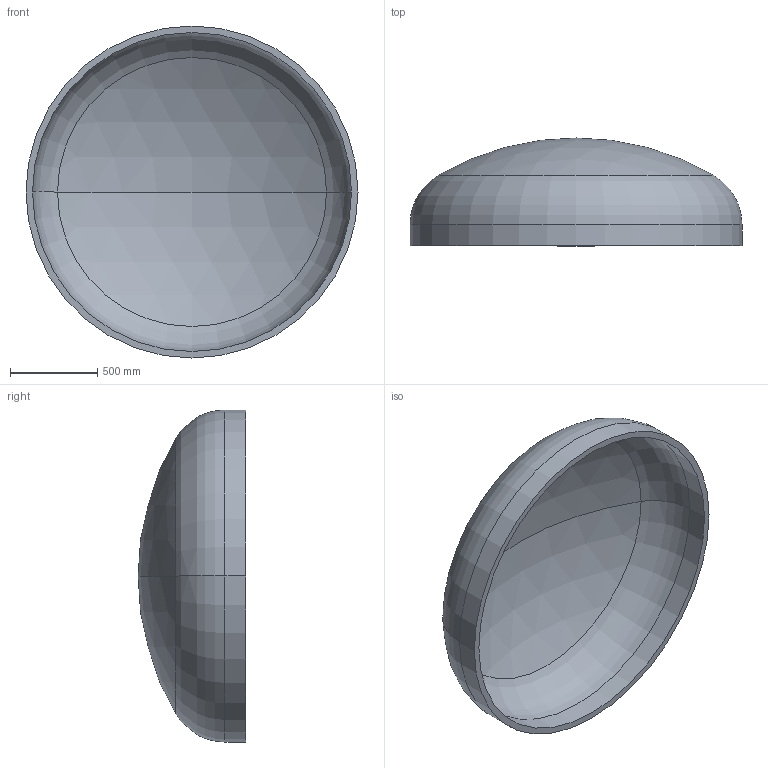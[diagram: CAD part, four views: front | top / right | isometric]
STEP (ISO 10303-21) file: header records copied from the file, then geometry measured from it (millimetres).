
FILE_DESCRIPTION (( 'STEP AP203' ), '1' );
FILE_NAME ('DIN 28013 Korbbogenform_-_Boden DIN 28013 - 1900 x 120 - I - s=37.step', '2016-07-01T13:07:11', ( '' ), ( '' ), 'SwSTEP 2.0', 'SolidWorks 2013', '' );
FILE_SCHEMA (( 'CONFIG_CONTROL_DESIGN' ));
Length unit declared in the file: millimetre
Products named in the file (1): DIN 28013 Korbbogenform_-_Boden DIN 28013 - 1900 x 120 - I - s=37
Bounding box: 1900 x 616.45 x 1900 mm (x, y, z)
Volume: 167350616.3 mm3; surface area: 9265396.7 mm2
Topology: 1 solids, 1 shells, 13 faces, 24 edges, 14 vertices
Faces by surface type: torus 4, cylinder 4, sphere 4, plane 1
Entity records: 407 total; most frequent: DIRECTION 72, CARTESIAN_POINT 52, ORIENTED_EDGE 48, AXIS2_PLACEMENT_3D 34, EDGE_CURVE 24, CIRCLE 20, EDGE_LOOP 14, VERTEX_POINT 14
